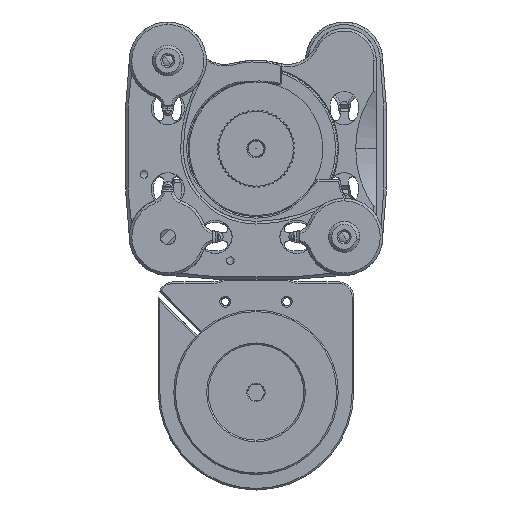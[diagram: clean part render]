
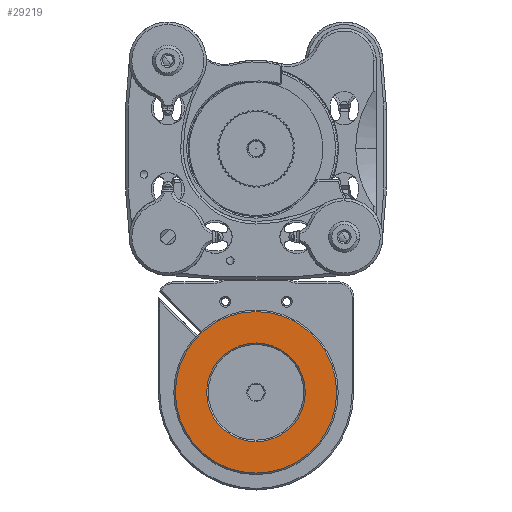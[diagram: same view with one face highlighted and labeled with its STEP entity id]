
A CAD part, front view. The second image highlights one B-rep face of the part: STEP entity #29219.
In plain terms, the highlighted planar face has unit normal (0, -1, 0).
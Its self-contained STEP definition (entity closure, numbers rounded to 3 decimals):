
#2489 = AXIS2_PLACEMENT_3D ( 'NONE', #69616, #23950, #36557 ) ;
#3859 = ORIENTED_EDGE ( 'NONE', *, *, #79172, .T. ) ;
#5140 = ORIENTED_EDGE ( 'NONE', *, *, #12528, .T. ) ;
#7593 = VERTEX_POINT ( 'NONE', #75681 ) ;
#9668 = DIRECTION ( 'NONE',  ( 0., 1., 0. ) ) ;
#11027 = CARTESIAN_POINT ( 'NONE',  ( 0., 0., 0. ) ) ;
#12528 = EDGE_CURVE ( 'NONE', #85448, #7593, #17561, .T. ) ;
#13594 = ORIENTED_EDGE ( 'NONE', *, *, #57709, .T. ) ;
#17561 = CIRCLE ( 'NONE', #64699, 9.6 ) ;
#20638 = DIRECTION ( 'NONE',  ( 0., 0., 1. ) ) ;
#23950 = DIRECTION ( 'NONE',  ( 0., -1., 0. ) ) ;
#26591 = CARTESIAN_POINT ( 'NONE',  ( 0., 0., 0. ) ) ;
#26799 = AXIS2_PLACEMENT_3D ( 'NONE', #74118, #80188, #20638 ) ;
#29219 = ADVANCED_FACE ( 'NONE', ( #72856, #33711 ), #47999, .F. ) ;
#32329 = CIRCLE ( 'NONE', #41972, 15.7 ) ;
#33711 = FACE_BOUND ( 'NONE', #78718, .T. ) ;
#34379 = DIRECTION ( 'NONE',  ( 0., 1., 0. ) ) ;
#36557 = DIRECTION ( 'NONE',  ( 0., 0., 1. ) ) ;
#37540 = DIRECTION ( 'NONE',  ( 0., 0., 1. ) ) ;
#41054 = VERTEX_POINT ( 'NONE', #41874 ) ;
#41874 = CARTESIAN_POINT ( 'NONE',  ( 0., 0., 15.7 ) ) ;
#41972 = AXIS2_PLACEMENT_3D ( 'NONE', #11027, #77141, #37540 ) ;
#42840 = ORIENTED_EDGE ( 'NONE', *, *, #69371, .T. ) ;
#45680 = DIRECTION ( 'NONE',  ( 0., 0., 1. ) ) ;
#47999 = PLANE ( 'NONE',  #26799 ) ;
#50622 = CARTESIAN_POINT ( 'NONE',  ( 0., 0., -15.7 ) ) ;
#53189 = VERTEX_POINT ( 'NONE', #50622 ) ;
#54358 = AXIS2_PLACEMENT_3D ( 'NONE', #82704, #9668, #68375 ) ;
#57709 = EDGE_CURVE ( 'NONE', #53189, #41054, #32329, .T. ) ;
#64699 = AXIS2_PLACEMENT_3D ( 'NONE', #26591, #34379, #45680 ) ;
#64939 = CIRCLE ( 'NONE', #2489, 15.7 ) ;
#67471 = EDGE_LOOP ( 'NONE', ( #42840, #13594 ) ) ;
#68375 = DIRECTION ( 'NONE',  ( 0., 0., 1. ) ) ;
#69371 = EDGE_CURVE ( 'NONE', #41054, #53189, #64939, .T. ) ;
#69616 = CARTESIAN_POINT ( 'NONE',  ( 0., 0., 0. ) ) ;
#71006 = CIRCLE ( 'NONE', #54358, 9.6 ) ;
#72856 = FACE_OUTER_BOUND ( 'NONE', #67471, .T. ) ;
#74118 = CARTESIAN_POINT ( 'NONE',  ( 0., 0., 0. ) ) ;
#75681 = CARTESIAN_POINT ( 'NONE',  ( 0., 0., -9.6 ) ) ;
#77141 = DIRECTION ( 'NONE',  ( 0., -1., 0. ) ) ;
#78718 = EDGE_LOOP ( 'NONE', ( #3859, #5140 ) ) ;
#79172 = EDGE_CURVE ( 'NONE', #7593, #85448, #71006, .T. ) ;
#80188 = DIRECTION ( 'NONE',  ( 0., 1., 0. ) ) ;
#82704 = CARTESIAN_POINT ( 'NONE',  ( 0., 0., 0. ) ) ;
#84061 = CARTESIAN_POINT ( 'NONE',  ( 0., 0., 9.6 ) ) ;
#85448 = VERTEX_POINT ( 'NONE', #84061 ) ;
